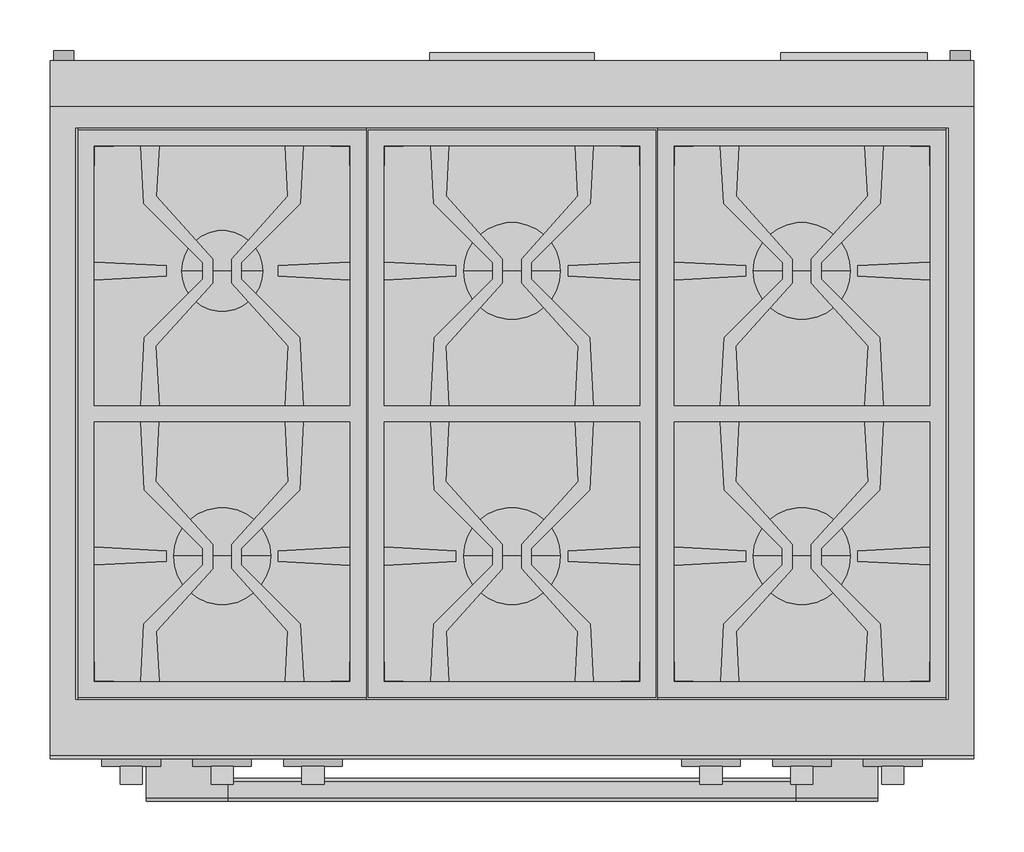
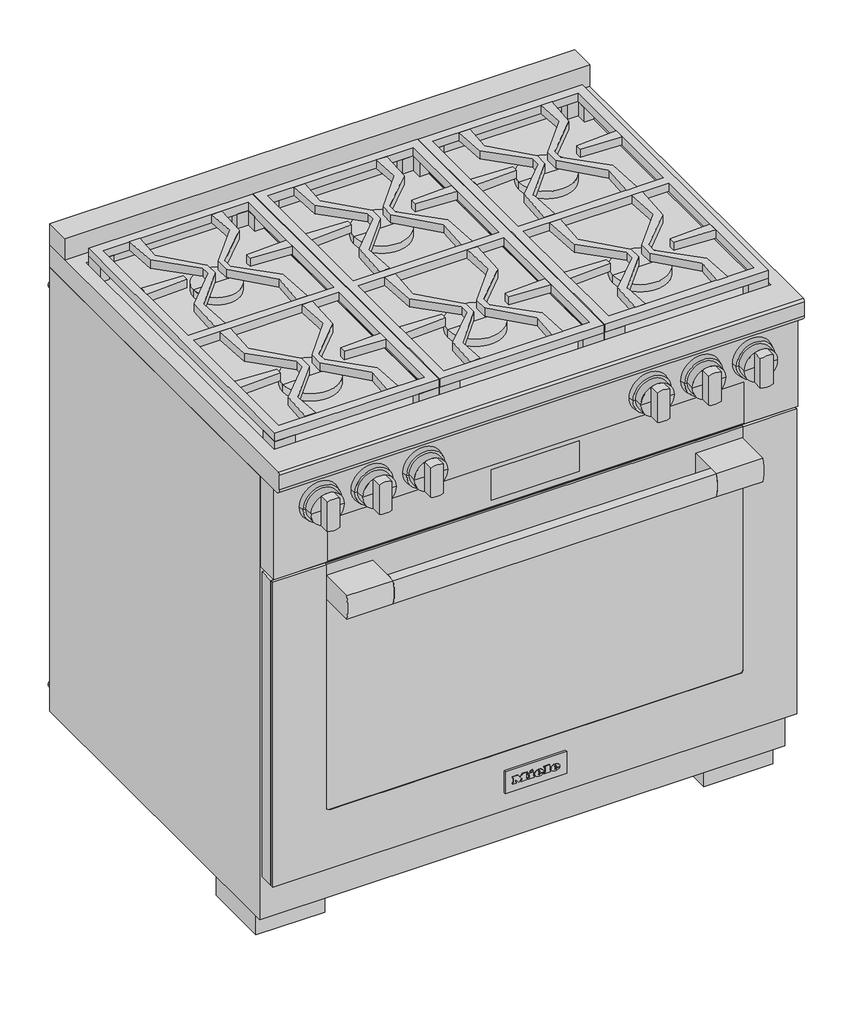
# Not in any storey: 1 proxy.
"""IFC4 building model written with IfcOpenShell, lengths in millimetres."""

from ifc_helpers import new_model, si_unit, origin, place, context, project, spatial, transform, mapped, element, save
from components import specialty_equipment_1dc6350c, specialty_equipment_75fcdb14

model = new_model("IFC4")

# Units and contexts
model_context = context("Model", 3, world=origin())
ifc_project = project(units=[si_unit("LENGTHUNIT", "METRE", prefix="MILLI")], contexts=[model_context])

# Site, building
site = spatial("IfcSite", under=ifc_project)
building = spatial("IfcBuilding", under=site)

# Proxy
placement = place(None, origin())
specialty_equipment_shape = specialty_equipment_1dc6350c(model_context)
specialty_equipment_2_shape = specialty_equipment_75fcdb14(model_context)
element("IfcBuildingElementProxy", 1, Name="11791590_USA_HR1934-3LP_EDST-CLS : 25193482_USA_11791590_HR1934-3LP_EDST-CLS", ObjectType="11791590_USA_HR1934-3LP_EDST-CLS : 25193482_USA_11791590_HR1934-3LP_EDST-CLS", at=placement, inside=building, context=model_context, shape_type="MappedRepresentation", body=[
    mapped(specialty_equipment_shape, transform((0.0, 0.0, 0.0), x_axis=(1.0, 0.0, 0.0), y_axis=(0.0, 1.0, 0.0), z_axis=(0.0, 0.0, 1.0))),
    mapped(specialty_equipment_2_shape, transform((0.0, 0.0, 0.0), x_axis=(1.0, 0.0, 0.0), y_axis=(0.0, 1.0, 0.0), z_axis=(0.0, 0.0, 1.0))),
])

save(model, "model.ifc")
